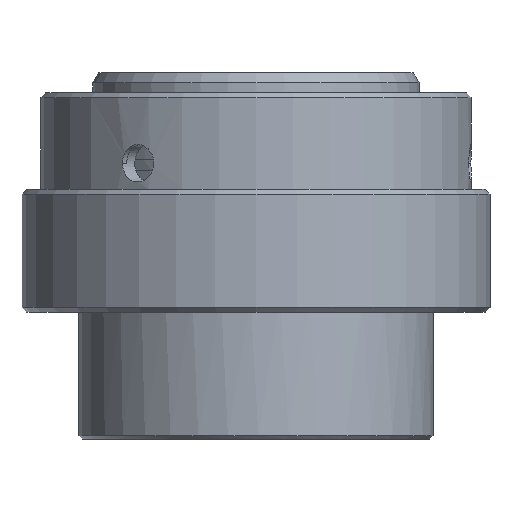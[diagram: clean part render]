
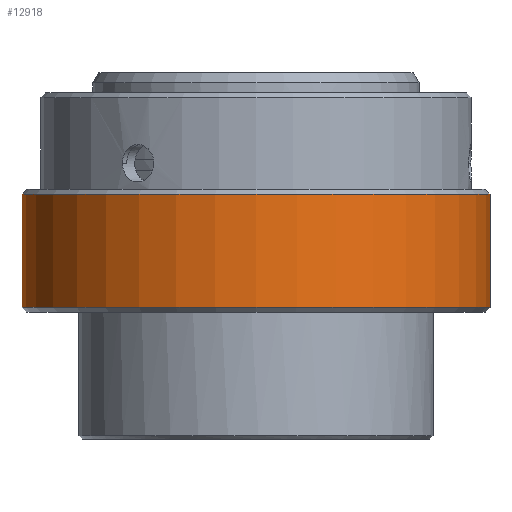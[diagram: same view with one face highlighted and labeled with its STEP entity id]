
A CAD part, left-side view. The second image highlights one B-rep face of the part: STEP entity #12918.
In plain terms, the highlighted cylindrical face has radius 24.664 mm (diameter 49.328 mm), a partial arc.
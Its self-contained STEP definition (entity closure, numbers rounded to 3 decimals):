
#220=DIRECTION('',(0.,0.,1.));
#221=VECTOR('',#220,11.938);
#222=CARTESIAN_POINT('',(0.,24.664,-22.606));
#223=LINE('',#222,#221);
#224=DIRECTION('',(0.,0.,1.));
#225=VECTOR('',#224,11.938);
#226=CARTESIAN_POINT('',(0.,-24.664,-22.606));
#227=LINE('',#226,#225);
#228=CARTESIAN_POINT('',(0.,0.,-22.606));
#229=DIRECTION('',(0.,0.,1.));
#230=DIRECTION('',(0.,1.,0.));
#231=AXIS2_PLACEMENT_3D('',#228,#229,#230);
#241=CARTESIAN_POINT('',(0.,0.,-10.668));
#242=DIRECTION('',(0.,0.,1.));
#243=DIRECTION('',(0.,1.,0.));
#244=AXIS2_PLACEMENT_3D('',#241,#242,#243);
#10226=CARTESIAN_POINT('',(0.,24.664,-22.606));
#10227=CARTESIAN_POINT('',(0.,24.664,-10.668));
#10228=VERTEX_POINT('',#10226);
#10229=VERTEX_POINT('',#10227);
#10232=CARTESIAN_POINT('',(0.,-24.664,-22.606));
#10233=CARTESIAN_POINT('',(0.,-24.664,-10.668));
#10234=VERTEX_POINT('',#10232);
#10235=VERTEX_POINT('',#10233);
#12906=CARTESIAN_POINT('',(0.,0.,1.156));
#12907=DIRECTION('',(0.,0.,-1.));
#12908=DIRECTION('',(0.,-1.,0.));
#12909=AXIS2_PLACEMENT_3D('',#12906,#12907,#12908);
#12910=CYLINDRICAL_SURFACE('',#12909,24.664);
#12911=ORIENTED_EDGE('',*,*,#12896,.T.);
#12913=ORIENTED_EDGE('',*,*,#12912,.T.);
#12914=ORIENTED_EDGE('',*,*,#12899,.F.);
#12915=ORIENTED_EDGE('',*,*,#12870,.F.);
#12916=EDGE_LOOP('',(#12911,#12913,#12914,#12915));
#12917=FACE_OUTER_BOUND('',#12916,.F.);
#12918=ADVANCED_FACE('',(#12917),#12910,.T.);
#232=CIRCLE('',#231,24.664);
#245=CIRCLE('',#244,24.664);
#12870=EDGE_CURVE('',#10228,#10234,#232,.T.);
#12896=EDGE_CURVE('',#10228,#10229,#223,.T.);
#12899=EDGE_CURVE('',#10234,#10235,#227,.T.);
#12912=EDGE_CURVE('',#10229,#10235,#245,.T.);
